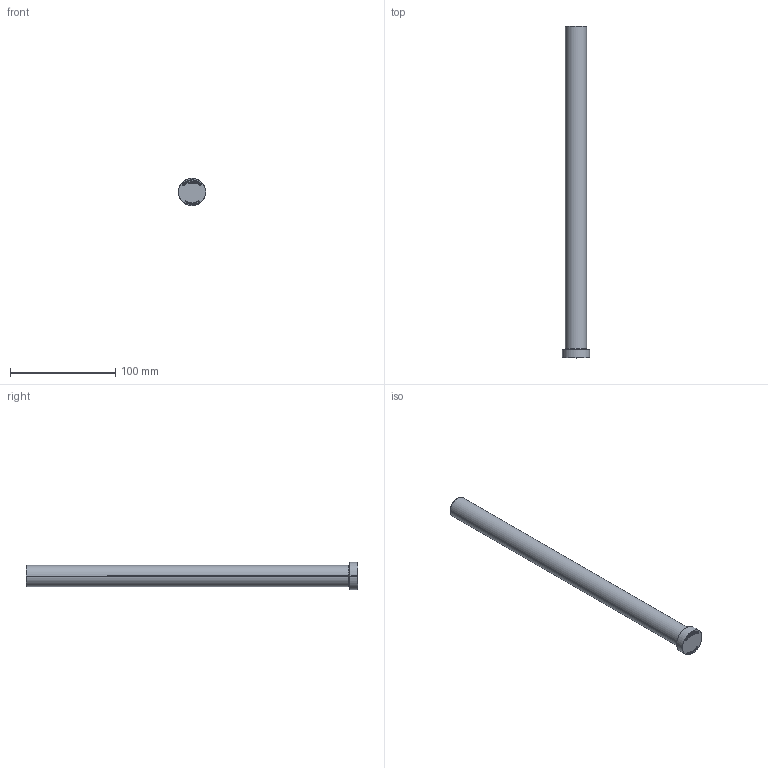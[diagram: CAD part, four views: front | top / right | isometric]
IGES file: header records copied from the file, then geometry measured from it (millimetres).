
Start section: SolidWorks IGES file using analytic representation for surfaces
Global section: file name: C:\Users\User\Downloads\Matripeça 31-08 tar\PB - PINO EXTRATOR TIPO _B_ (CATÁLOGO)\PB20,0\PB20,0315.IGS; native system: SolidWorks 2024; preprocessor: SolidWorks 2024; author: User; date: 260901.155655; units: millimetre
Bounding box: 26 x 315 x 26 mm (x, y, z)
Surface area: 20998.6 mm2 (no closed solid volume)
Topology: 0 solids, 0 shells, 405 faces, 4438 edges, 4438 vertices
Faces by surface type: bspline 391, revolution 14
